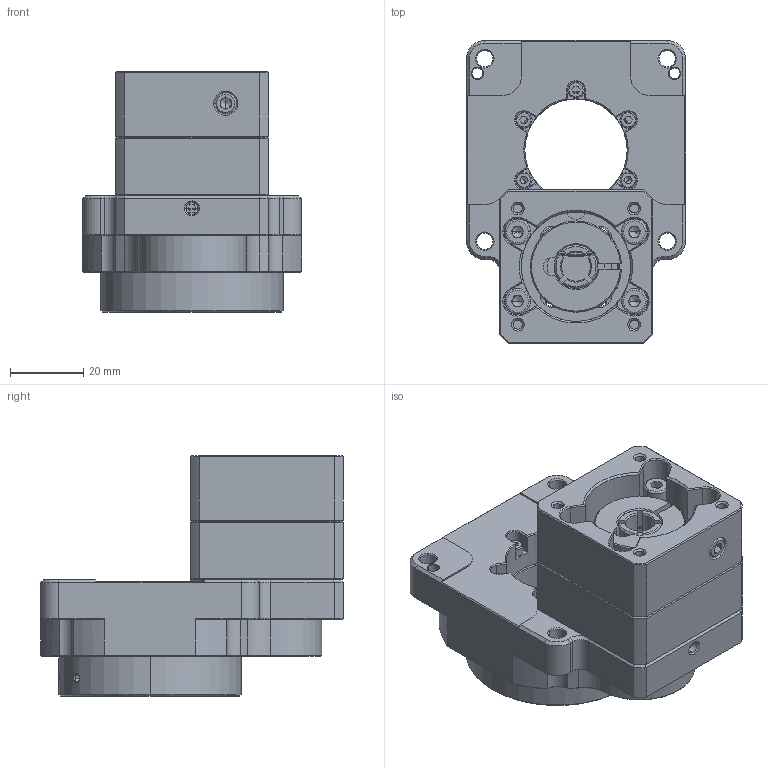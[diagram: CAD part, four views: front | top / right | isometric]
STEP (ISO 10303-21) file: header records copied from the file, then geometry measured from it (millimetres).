
FILE_DESCRIPTION (( 'STEP AP203' ), '1' );
FILE_NAME ('HRG60-5.STEP', '2020-06-24T05:38:26', ( '' ), ( '' ), 'SwSTEP 2.0', 'SolidWorks 2012', '' );
FILE_SCHEMA (( 'CONFIG_CONTROL_DESIGN' ));
Length unit declared in the file: millimetre
Products named in the file (1): HRG60-5
Bounding box: 60 x 83 x 66 mm (x, y, z)
Surface area: 35391 mm2 (no closed solid volume)
Topology: 0 solids, 32 shells, 648 faces, 2090 edges, 1441 vertices
Faces by surface type: plane 260, cone 187, cylinder 157, bspline 22, torus 22
Entity records: 26814 total; most frequent: CARTESIAN_POINT 8711, DIRECTION 3761, ORIENTED_EDGE 3450, EDGE_CURVE 2076, VERTEX_POINT 1441, AXIS2_PLACEMENT_3D 1348, LINE 1065, VECTOR 1065
